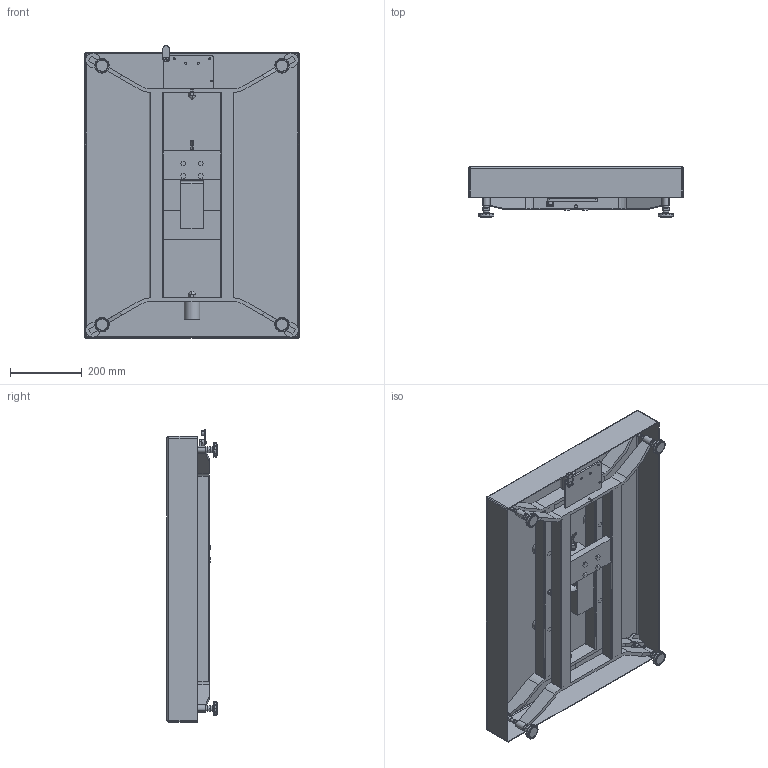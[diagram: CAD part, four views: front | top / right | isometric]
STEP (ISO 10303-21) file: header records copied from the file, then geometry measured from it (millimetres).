
FILE_DESCRIPTION((''),'2;1');
FILE_NAME('PLATFORM_PBA4XX-CC_HYGIENIC','2022-03-18T09:35:18',('fu-34'),(''),'CREO PARAMETRIC BY PTC INC, 2018260','CREO PARAMETRIC BY PTC INC, 2018260','');
FILE_SCHEMA(('CONFIG_CONTROL_DESIGN','SHAPE_APPEARANCE_LAYERS_GROUPS'));
Products named in the file (1): PLATFORM_PBA4XX-CC_HYGIENIC
Bounding box: 600 x 139.9 x 817.5 mm (x, y, z)
Volume: 4586519.8 mm3; surface area: 2637300.7 mm2
Topology: 14 solids, 163 shells, 2652 faces, 6234 edges, 3819 vertices
Faces by surface type: plane 1018, cylinder 959, cone 507, torus 156, bspline 8, sphere 4
Entity records: 96440 total; most frequent: CARTESIAN_POINT 18786, DIRECTION 12855, ORIENTED_EDGE 12038, EDGE_CURVE 6171, AXIS2_PLACEMENT_3D 5137, VERTEX_POINT 3819, PRESENTATION_STYLE_ASSIGNMENT 3048, STYLED_ITEM 3048
